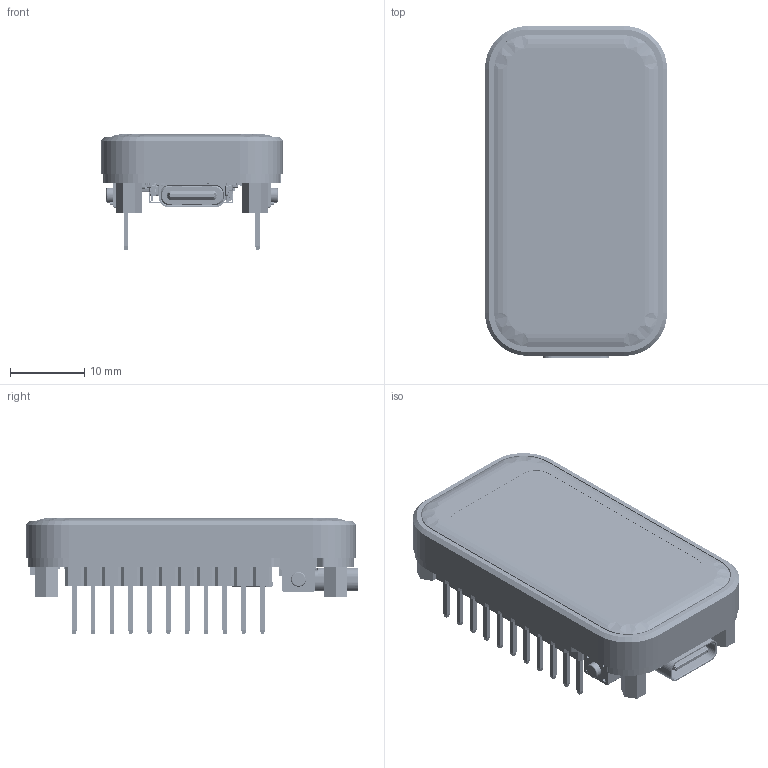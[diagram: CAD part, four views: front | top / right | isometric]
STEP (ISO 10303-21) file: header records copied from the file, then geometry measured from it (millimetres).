
FILE_DESCRIPTION((''),'2;1');
FILE_NAME('ESP32-C6-TOUCH-LCD-1_47_ASM','2026-03-31T09:28:48',('xiaojisheng'),(''),'CREO PARAMETRIC BY PTC INC, 2021063','CREO PARAMETRIC BY PTC INC, 2021063','');
FILE_SCHEMA(('CONFIG_CONTROL_DESIGN','SHAPE_APPEARANCE_LAYERS_GROUPS'));
Products named in the file (166): HSX01470105002B-A0; HSX0147024Y15-A0; HSX0147-TP_LCD_ASM; ESP32-S3-TOUCH-LCD-1_47-CASE; BOARD; USER_LIBRARY-0201_0603M__CAP_1; USER_LIBRARY-0201_0603M__CAP_2; USER_LIBRARY-0201_0603M__CAP_3; USER_LIBRARY-0201_0603M__CAP_ASM; C22_ASM; SWITCHER-4_5X3_3XH3_4; KEY2_ASM; KEY1_ASM; EXTRUDED-27405; 941181904_ASM; Y1_ASM; EXTRUDED-27800; 1061818928_ASM; U1_ASM; SOT23-5AND6_00; SOT23-5-14065_AF0; SOT23-5-14113_AF0_ASM_ASM; SOT23-5-2_ASM; U4_ASM; C1_ASM; C2_ASM; C3_ASM; C4_ASM; C5_ASM; C6_ASM; C7_ASM; _1_10001; 3_1_A; 2_100; C_0402-672_AF0_ASM_ASM; C_0402-4045_AF0_ASM_ASM; C_0402_ASM; C8_ASM; C9_ASM; C10_ASM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
Assembly tree (220 placements, depth 9):
  ESP32-C6-TOUCH-LCD-1_47_ASM
    HSX0147-TP_LCD_ASM
      HSX01470105002B-A0
      HSX0147024Y15-A0
    ESP32-S3-TOUCH-LCD-1_47-CASE
    ESP32-C6-TOUCH-LCD-1_47-PCBA_ASM
      ESP32-C6-TOUCH-LCD-1_47-PCBV0_ASM
        PCB_ASM
          BOARD
          C22_ASM
            USER_LIBRARY-0201_0603M__CAP_ASM
              USER_LIBRARY-0201_0603M__CAP_1
              USER_LIBRARY-0201_0603M__CAP_2
              USER_LIBRARY-0201_0603M__CAP_3
          KEY2_ASM
            SWITCHER-4_5X3_3XH3_4
          KEY1_ASM
            SWITCHER-4_5X3_3XH3_4
          Y1_ASM
            941181904_ASM
              EXTRUDED-27405
          U1_ASM
            1061818928_ASM
              EXTRUDED-27800
          U4_ASM
            SOT23-5-2_ASM
              SOT23-5-14113_AF0_ASM_ASM
                SOT23-5AND6_00  x5
                SOT23-5-14065_AF0
          C1_ASM
            USER_LIBRARY-0201_0603M__CAP_ASM
              USER_LIBRARY-0201_0603M__CAP_1
              USER_LIBRARY-0201_0603M__CAP_2
              USER_LIBRARY-0201_0603M__CAP_3
          C2_ASM
            USER_LIBRARY-0201_0603M__CAP_ASM
              USER_LIBRARY-0201_0603M__CAP_1
              USER_LIBRARY-0201_0603M__CAP_2
              USER_LIBRARY-0201_0603M__CAP_3
          C3_ASM
            USER_LIBRARY-0201_0603M__CAP_ASM
              USER_LIBRARY-0201_0603M__CAP_1
              USER_LIBRARY-0201_0603M__CAP_2
              USER_LIBRARY-0201_0603M__CAP_3
          C4_ASM
            USER_LIBRARY-0201_0603M__CAP_ASM
              USER_LIBRARY-0201_0603M__CAP_1
              USER_LIBRARY-0201_0603M__CAP_2
              USER_LIBRARY-0201_0603M__CAP_3
          C5_ASM
            USER_LIBRARY-0201_0603M__CAP_ASM
              USER_LIBRARY-0201_0603M__CAP_1
              USER_LIBRARY-0201_0603M__CAP_2
              USER_LIBRARY-0201_0603M__CAP_3
          C6_ASM
            USER_LIBRARY-0201_0603M__CAP_ASM
              USER_LIBRARY-0201_0603M__CAP_1
              USER_LIBRARY-0201_0603M__CAP_2
              USER_LIBRARY-0201_0603M__CAP_3
          C7_ASM
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Bounding box: 24.55 x 44.77 x 15.6 mm (x, y, z)
Volume: 5947.5 mm3; surface area: 12409.6 mm2
Topology: 240 solids, 255 shells, 11924 faces, 31333 edges, 20214 vertices
Faces by surface type: plane 7639, extrusion 2051, cylinder 1815, sphere 251, cone 64, bspline 60, torus 44
Entity records: 239817 total; most frequent: CARTESIAN_POINT 49539, ORIENTED_EDGE 31396, DIRECTION 29003, EDGE_CURVE 15701, VECTOR 12631, LINE 12199, PRESENTATION_STYLE_ASSIGNMENT 12095, STYLED_ITEM 11307
